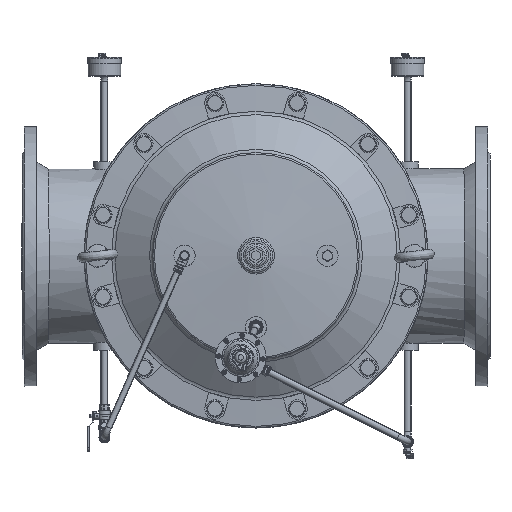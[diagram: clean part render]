
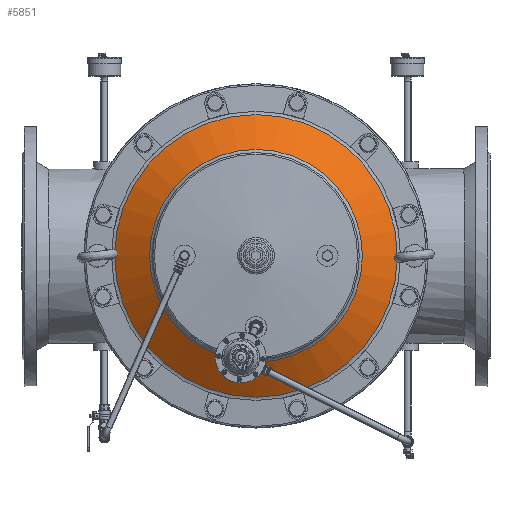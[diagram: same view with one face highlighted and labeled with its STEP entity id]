
A CAD part, top view. The second image highlights one B-rep face of the part: STEP entity #5851.
In plain terms, the highlighted conical face has half-angle 56.75 degrees and reference radius 193.161 mm.
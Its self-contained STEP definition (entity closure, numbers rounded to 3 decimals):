
#5851=ADVANCED_FACE('',(#19677,#19679),#19681,.T.);
#19677=FACE_OUTER_BOUND('',#19678,.T.);
#19678=EDGE_LOOP('',(#44024));
#19679=FACE_OUTER_BOUND('',#19680,.T.);
#19680=EDGE_LOOP('',(#44025));
#19681=CONICAL_SURFACE('',#19682,193.161,0.99);
#19682=AXIS2_PLACEMENT_3D('',#19683,#19684,#19685);
#19683=CARTESIAN_POINT('',(0.,-34.356,0.));
#19684=DIRECTION('',(0.,1.,0.));
#19685=DIRECTION('',(-1.,0.,0.));
#44024=ORIENTED_EDGE('',*,*,#51139,.F.);
#44025=ORIENTED_EDGE('',*,*,#51121,.F.);
#51121=EDGE_CURVE('',#56292,#56292,#56293,.T.);
#51139=EDGE_CURVE('',#56328,#56328,#56329,.F.);
#56292=VERTEX_POINT('',#82235);
#56293=CIRCLE('',#82236,165.969);
#56328=VERTEX_POINT('',#82325);
#56329=CIRCLE('',#82326,220.354);
#82235=CARTESIAN_POINT('',(165.969,-52.184,0.));
#82236=AXIS2_PLACEMENT_3D('',#82237,#82238,#82239);
#82237=CARTESIAN_POINT('',(0.,-52.184,0.));
#82238=DIRECTION('',(0.,-1.,0.));
#82239=DIRECTION('',(1.,0.,0.));
#82325=CARTESIAN_POINT('',(220.354,-16.527,0.));
#82326=AXIS2_PLACEMENT_3D('',#82327,#82328,#82329);
#82327=CARTESIAN_POINT('',(0.,-16.527,0.));
#82328=DIRECTION('',(0.,-1.,0.));
#82329=DIRECTION('',(1.,0.,0.));
